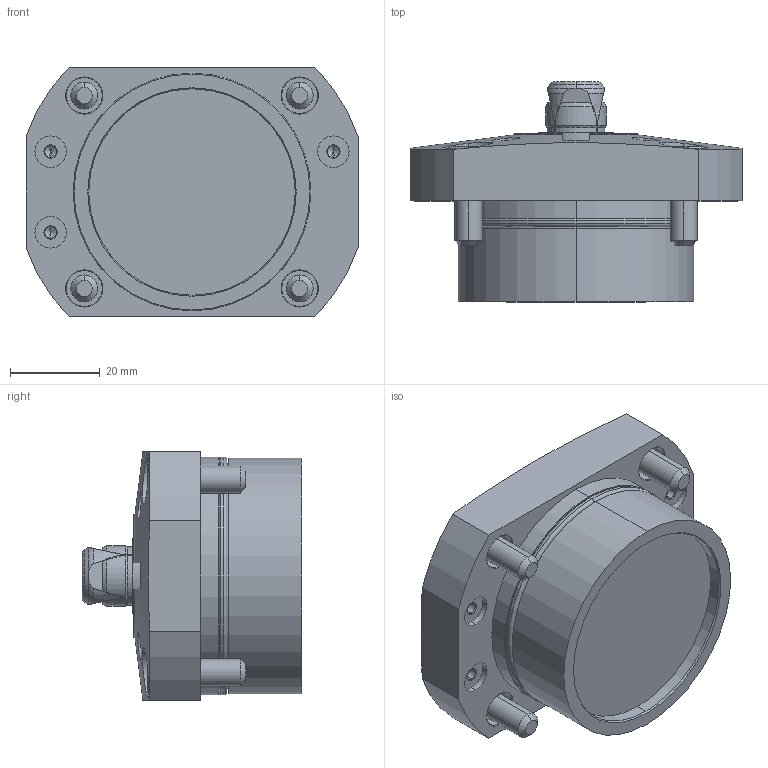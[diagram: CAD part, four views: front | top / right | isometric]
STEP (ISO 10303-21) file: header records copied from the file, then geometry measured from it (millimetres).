
FILE_DESCRIPTION (( 'STEP AP203' ), '1' );
FILE_NAME ('SFH3140.STEP', '2010-11-03T23:22:50', ( ' ' ), ( ' ' ), 'SwSTEP 2.0', 'SolidWorks 2010', '' );
FILE_SCHEMA (( 'CONFIG_CONTROL_DESIGN' ));
Length unit declared in the file: millimetre
Products named in the file (7): 6妏寠晅无倌_M6_16; SFH3140; SFH3140_套菁轤礁诎蔬晅; SFH3_钾堇轤O剌皋晅; φ14_ｽﾘｰﾌﾞ; 冇14_郫霓; 6妏寠晅无倌_M3_10
Assembly tree (14 placements, depth 2):
  SFH3140
    6妏寠晅无倌_M3_10  x6
    冇14_郫霓
    SFH3140_套菁轤礁诎蔬晅
    SFH3_钾堇轤O剌皋晅
    6妏寠晅无倌_M6_16  x4
    φ14_ｽﾘｰﾌﾞ
Bounding box: 74 x 49 x 55.5 mm (x, y, z)
Volume: 95507.6 mm3; surface area: 29798.9 mm2
Topology: 18 solids, 18 shells, 564 faces, 1147 edges, 630 vertices
Faces by surface type: plane 227, cone 180, cylinder 138, torus 19
Entity records: 10576 total; most frequent: CARTESIAN_POINT 2547, DIRECTION 1570, ORIENTED_EDGE 1406, EDGE_CURVE 703, AXIS2_PLACEMENT_3D 652, VERTEX_POINT 430, EDGE_LOOP 361, CIRCLE 319
